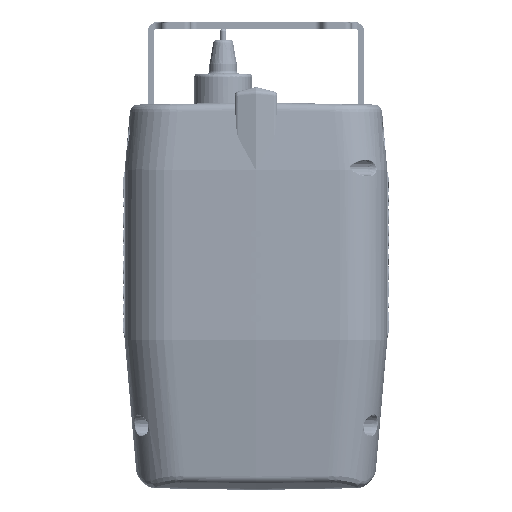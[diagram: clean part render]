
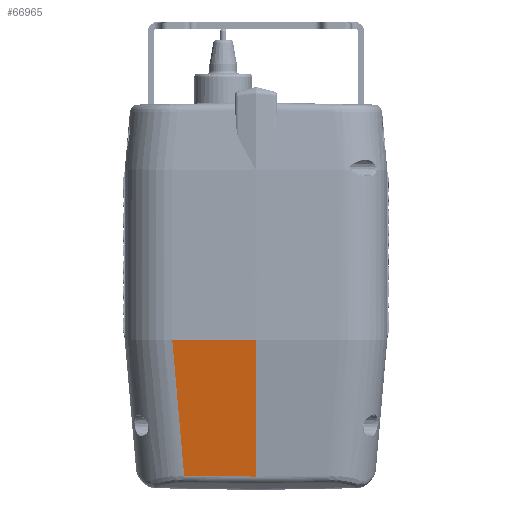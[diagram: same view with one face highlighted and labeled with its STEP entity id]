
A CAD part, front view. The second image highlights one B-rep face of the part: STEP entity #66965.
In plain terms, the highlighted planar face has unit normal (-0.018, -0.992, -0.122).
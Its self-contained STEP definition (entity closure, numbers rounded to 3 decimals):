
#2722 = CARTESIAN_POINT ( 'NONE',  ( -39.556, -68.309, -149.962 ) ) ;
#12737 = ORIENTED_EDGE ( 'NONE', *, *, #178358, .T. ) ;
#14605 = CARTESIAN_POINT ( 'NONE',  ( -0.67, -61.05, -214.653 ) ) ;
#19294 = DIRECTION ( 'NONE',  ( 0., -0.122, 0.993 ) ) ;
#20248 = VERTEX_POINT ( 'NONE', #138902 ) ;
#21069 = VERTEX_POINT ( 'NONE', #2722 ) ;
#27443 =( BOUNDED_CURVE ( )  B_SPLINE_CURVE ( 3, ( #108720, #157527, #43693, #158254 ),
 .UNSPECIFIED., .F., .F. ) 
 B_SPLINE_CURVE_WITH_KNOTS ( ( 4, 4 ),
 ( 6.283, 6.29 ),
 .UNSPECIFIED. ) 
 CURVE ( )  GEOMETRIC_REPRESENTATION_ITEM ( )  RATIONAL_B_SPLINE_CURVE ( ( 1., 1., 1., 1. ) ) 
 REPRESENTATION_ITEM ( '' )  );
#40473 = VERTEX_POINT ( 'NONE', #134607 ) ;
#43693 = CARTESIAN_POINT ( 'NONE',  ( -39.505, -68.31, -149.959 ) ) ;
#48434 = ORIENTED_EDGE ( 'NONE', *, *, #78760, .T. ) ;
#54493 = ORIENTED_EDGE ( 'NONE', *, *, #72889, .F. ) ;
#60281 = AXIS2_PLACEMENT_3D ( 'NONE', #100813, #117368, #19294 ) ;
#60603 = LINE ( 'NONE', #99550, #196401 ) ;
#60961 = DIRECTION ( 'NONE',  ( 1., -0.017, -0.001 ) ) ;
#66965 = ADVANCED_FACE ( 'NONE', ( #117931 ), #198992, .T. ) ;
#72889 = EDGE_CURVE ( 'NONE', #80727, #40473, #147465, .T. ) ;
#78760 = EDGE_CURVE ( 'NONE', #96045, #20248, #212514, .T. ) ;
#80727 = VERTEX_POINT ( 'NONE', #174168 ) ;
#90099 = EDGE_CURVE ( 'NONE', #80727, #21069, #27443, .T. ) ;
#96045 = VERTEX_POINT ( 'NONE', #136191 ) ;
#98586 = VECTOR ( 'NONE', #60961, 1000. ) ;
#99550 = CARTESIAN_POINT ( 'NONE',  ( -39.264, -67.904, -153.302 ) ) ;
#100813 = CARTESIAN_POINT ( 'NONE',  ( 0., -69., -150. ) ) ;
#101271 = LINE ( 'NONE', #192386, #183303 ) ;
#108720 = CARTESIAN_POINT ( 'NONE',  ( -39.401, -68.312, -149.958 ) ) ;
#110781 = DIRECTION ( 'NONE',  ( 0., -0.122, 0.993 ) ) ;
#112650 = DIRECTION ( 'NONE',  ( 1., -0.016, -0.012 ) ) ;
#117368 = DIRECTION ( 'NONE',  ( -0.017, -0.992, -0.122 ) ) ;
#117931 = FACE_OUTER_BOUND ( 'NONE', #164695, .T. ) ;
#122472 = EDGE_CURVE ( 'NONE', #21069, #96045, #60603, .T. ) ;
#125365 = VECTOR ( 'NONE', #112650, 1000. ) ;
#134607 = CARTESIAN_POINT ( 'NONE',  ( 0., -69., -150. ) ) ;
#136191 = CARTESIAN_POINT ( 'NONE',  ( -33.932, -60.515, -214.243 ) ) ;
#138902 = CARTESIAN_POINT ( 'NONE',  ( 0., -61.061, -214.662 ) ) ;
#144943 = ORIENTED_EDGE ( 'NONE', *, *, #122472, .T. ) ;
#147465 = LINE ( 'NONE', #159161, #98586 ) ;
#152453 = ORIENTED_EDGE ( 'NONE', *, *, #90099, .T. ) ;
#157527 = CARTESIAN_POINT ( 'NONE',  ( -39.453, -68.311, -149.958 ) ) ;
#158254 = CARTESIAN_POINT ( 'NONE',  ( -39.556, -68.309, -149.962 ) ) ;
#159161 = CARTESIAN_POINT ( 'NONE',  ( -0.085, -68.999, -150. ) ) ;
#164695 = EDGE_LOOP ( 'NONE', ( #144943, #48434, #12737, #54493, #152453 ) ) ;
#174168 = CARTESIAN_POINT ( 'NONE',  ( -39.401, -68.312, -149.958 ) ) ;
#178358 = EDGE_CURVE ( 'NONE', #20248, #40473, #101271, .T. ) ;
#183303 = VECTOR ( 'NONE', #110781, 1000. ) ;
#192386 = CARTESIAN_POINT ( 'NONE',  ( 0., -69., -150. ) ) ;
#196401 = VECTOR ( 'NONE', #199119, 1000. ) ;
#198992 = PLANE ( 'NONE',  #60281 ) ;
#199119 = DIRECTION ( 'NONE',  ( 0.087, 0.12, -0.989 ) ) ;
#212514 = LINE ( 'NONE', #14605, #125365 ) ;
